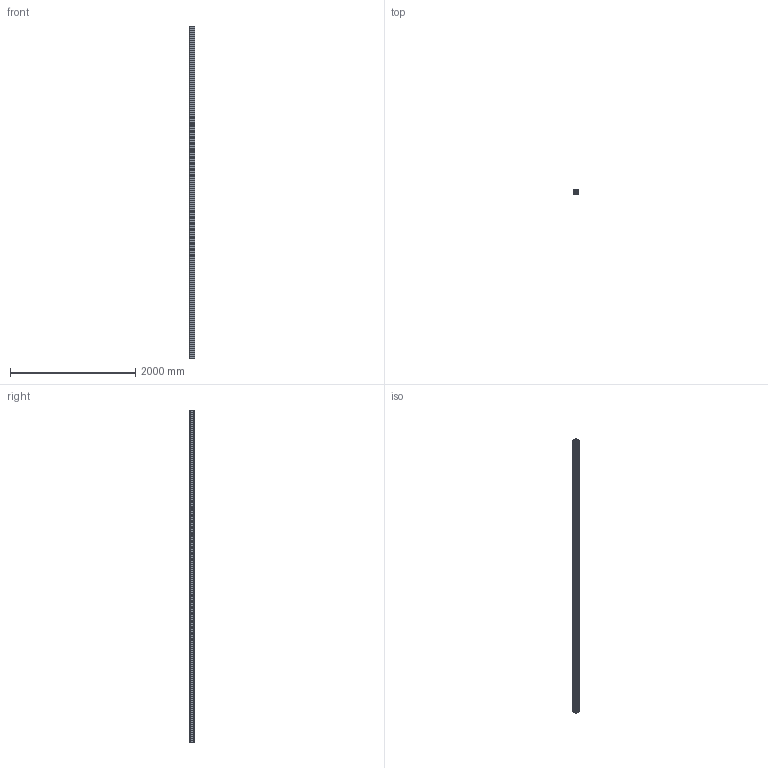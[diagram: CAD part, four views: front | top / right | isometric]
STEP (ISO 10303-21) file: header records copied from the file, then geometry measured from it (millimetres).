
FILE_DESCRIPTION (( 'STEP AP203' ), '1' );
FILE_NAME ('_-_MLF 4 5298 mm lang.step', '2005-09-01T12:47:27', ( ' ' ), ( ' ' ), 'SwSTEP 2.0', 'SolidWorks 2005187', '' );
FILE_SCHEMA (( 'CONFIG_CONTROL_DESIGN' ));
Length unit declared in the file: millimetre
Products named in the file (1): _-_MLF 4  5298 mm lang
Bounding box: 87.56 x 80 x 5298 mm (x, y, z)
Volume: 12207850.5 mm3; surface area: 6540707.1 mm2
Topology: 1 solids, 1 shells, 248 faces, 762 edges, 500 vertices
Faces by surface type: plane 174, cylinder 74
Entity records: 8575 total; most frequent: ORIENTED_EDGE 1524, CARTESIAN_POINT 1511, DIRECTION 1408, EDGE_CURVE 762, VECTOR 614, LINE 614, VERTEX_POINT 500, AXIS2_PLACEMENT_3D 397
